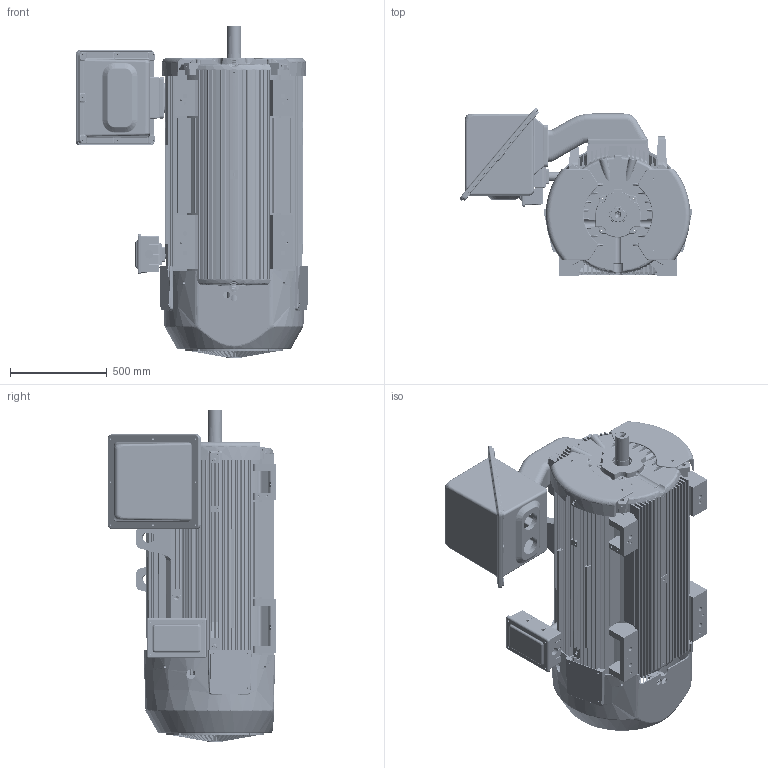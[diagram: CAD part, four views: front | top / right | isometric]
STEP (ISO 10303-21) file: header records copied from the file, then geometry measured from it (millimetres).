
FILE_DESCRIPTION((''),'2;1');
FILE_NAME('5000S_J_ASM','2016-05-04T',('emd2341'),('Nidec Motor Corporation'),'PRO/ENGINEER BY PARAMETRIC TECHNOLOGY CORPORATION, 2013150','PRO/ENGINEER BY PARAMETRIC TECHNOLOGY CORPORATION, 2013150','');
FILE_SCHEMA(('CONFIG_CONTROL_DESIGN'));
Length unit declared in the file: inch
Products named in the file (23): 0467657; 0467645; 0618662; 0618661; 0866307-RC; 0618668-001; 0620728-001; 0467658; 0618666; 0467659; 0933178; 0475628; 0475629; 0114382; 0582109; 0635416; 0814517; 0618664; 0623604-2; 0623601; 0623604-1; 0623603; 5000S_J_ASM
Assembly tree (31 placements, depth 2):
  5000S_J_ASM
    0467657
    0467645
    0618662
    0618661
    0866307-RC
    0618668-001  x2
    0620728-001
    0467658  x2
    0618666
    0467659
    0933178
    0475628
    0475629
    0114382  x3
    0582109  x6
    0635416
    0814517
    0618664
    0623604-2
    0623601
    0623604-1
    0623603
Bounding box: 1205.09 x 871.3 x 1717.67 mm (x, y, z)
Volume: 132861721.8 mm3; surface area: 21042628.8 mm2
Topology: 31 solids, 31 shells, 7324 faces, 18306 edges, 10979 vertices
Faces by surface type: cylinder 2551, plane 1842, bspline 1573, torus 604, cone 522, sphere 232
Entity records: 283292 total; most frequent: CARTESIAN_POINT 124190, ORIENTED_EDGE 35354, DIRECTION 30638, EDGE_CURVE 17677, AXIS2_PLACEMENT_3D 12247, VERTEX_POINT 10678, EDGE_LOOP 7763, FACE_OUTER_BOUND 7104
